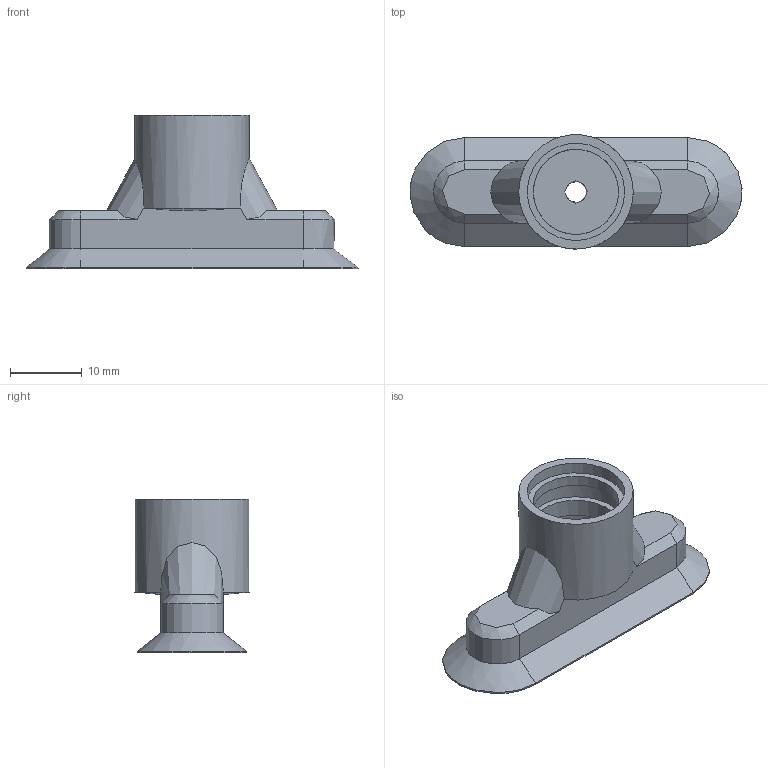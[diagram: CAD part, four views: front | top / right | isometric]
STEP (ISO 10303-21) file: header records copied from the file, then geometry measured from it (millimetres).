
FILE_DESCRIPTION (( 'STEP AP214' ), '1' );
FILE_NAME ('10FO.45X15.002.09.STEP', '2025-06-09T12:15:50', ( '' ), ( '' ), 'SwSTEP 2.0', 'SolidWorks 2025', '' );
FILE_SCHEMA (( 'AUTOMOTIVE_DESIGN' ));
Length unit declared in the file: millimetre
Products named in the file (1): 10FO.45X15.002.09
Bounding box: 46.25 x 15.93 x 21.41 mm (x, y, z)
Volume: 3377.7 mm3; surface area: 3357.1 mm2
Topology: 1 solids, 1 shells, 55 faces, 132 edges, 85 vertices
Faces by surface type: plane 26, bspline 13, cylinder 13, cone 3
Full cylindrical faces by diameter (mm): 2.587 x4, 3.105 x1, 11.902 x2, 13.558 x3, 15.939 x1
Entity records: 3394 total; most frequent: CARTESIAN_POINT 2365, ORIENTED_EDGE 214, DIRECTION 146, EDGE_CURVE 107, EDGE_LOOP 82, VERTEX_POINT 79, FACE_OUTER_BOUND 70, B_SPLINE_CURVE_WITH_KNOTS 64
